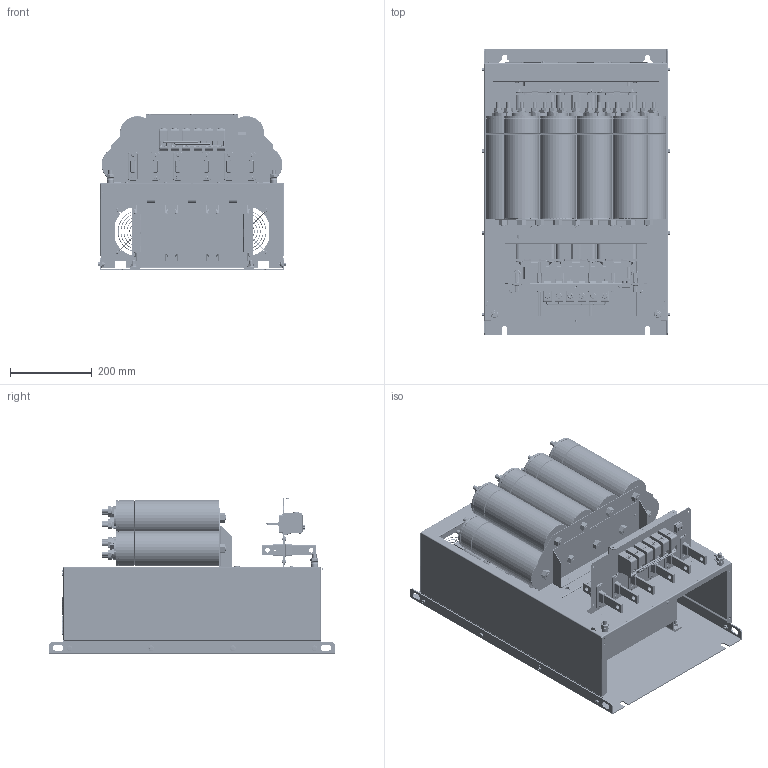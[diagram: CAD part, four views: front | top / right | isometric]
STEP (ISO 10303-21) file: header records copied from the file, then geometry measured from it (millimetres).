
FILE_DESCRIPTION(/* description */ (''),/* implementation_level */ '2;1');
FILE_NAME(/* name */ 'C:\Users\Erika.Jenzer\OneDrive - Schaffner EMV AG\Desktop\Neuer Ordner (2)\Plutus Reactors purchasing\CUSTOMER FS F IP00 9 CAPS.stp',/* time_stamp */ '2023-12-07T08:52:33+01:00',/* author */ ('erika.jenzer'),/* organization */ (''),/* preprocessor_version */ 'ST-DEVELOPER v18.1',/* originating_system */ 'Autodesk Inventor 2020',/* authorisation */ '');
FILE_SCHEMA (('AUTOMOTIVE_DESIGN { 1 0 10303 214 3 1 1 }'));
Products named in the file (1): CUSTOMER FS F IP00 9 CAPS
Bounding box: 459.59 x 700 x 384 mm (x, y, z)
Volume: 32833959.3 mm3; surface area: 3822536.7 mm2
Topology: 26 solids, 26 shells, 10302 faces, 27740 edges, 18029 vertices
Faces by surface type: plane 7017, cylinder 1961, bspline 511, cone 422, torus 391
Full cylindrical faces by diameter (mm): 1 x2, 2 x6, 2.8 x6, 3.242 x10, 3.4 x6, 3.5 x4, 4 x70, 4.1 x12, 4.3 x8, 4.5 x66, 5.2 x6, 5.4 x3, 5.5 x16, 6 x16, 6.5 x10, 6.8 x6, 7 x14, 7.9 x16, 8 x22, 8.7 x4, 9 x14, 9.188 x2, 9.9 x3, 10 x29, 10.5 x2, 11 x22, 11.05 x4, 12 x11, 12.5 x1, 12.7 x3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
Entity records: 357509 total; most frequent: CARTESIAN_POINT 91502, ORIENTED_EDGE 55600, DIRECTION 53051, EDGE_CURVE 27800, LINE 19137, VECTOR 19137, VERTEX_POINT 18029, AXIS2_PLACEMENT_3D 16957
